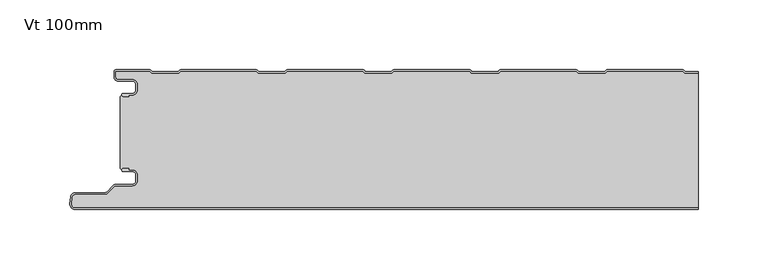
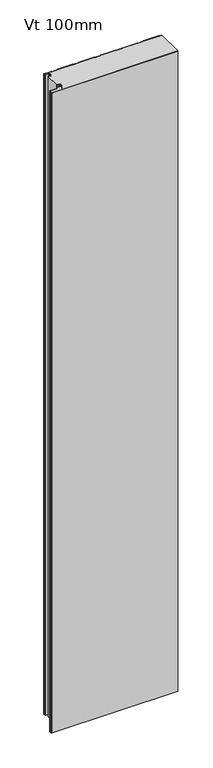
"""IFC4 building model written with IfcOpenShell, lengths in millimetres: plate geometry, KIP-MEX-KSS-1067-R19-CP-Vt-OP_SL : Vt 100mm."""

from ifc_helpers import new_model, si_unit, point, frame, frame_2d, origin, origin_with_axes, place, context, project, spatial, polyline, circle_curve, trimmed, segment, composite_curve, outline, extrude, source, transform, mapped, element, save
from ifc_brep_helpers import plane_surface, cylinder_surface, revolved_surface, advanced_brep


def vt_100mm_dac5878b(model_context):
    return source(origin(), model_context, "Body", "SolidModel", [
        advanced_brep(
        [(-204.468691, -17.0015159, 2400.0), (-205.4686883, -18.0015191, 2400.0), (-204.468691, -19.0015105, 2400.0), (-200.4684874, -19.0015105, 2400.0), (-200.4684874, -18.0015159, 2400.0), (-197.7762776, -18.0015159, 2400.0), (-194.4762819, -14.7015202, 2400.0), (-194.4762819, -10.301529, 2400.0), (-197.7762774, -7.0015335, 2400.0), (-208.1962563, -7.0015335, 2400.0), (-209.9662505, -5.2315393, 2400.0), (-209.9662505, -0.9999916, 2400.0), (-185.4659738, -0.9999916, 2400.0), (-184.0803312, -2.2002307, 2400.0), (-164.7051649, -2.2002307, 2400.0), (-163.319532, -1.0, 2400.0), (-109.2661166, -1.0, 2400.0), (-107.8804836, -2.2002307, 2400.0), (-88.5053173, -2.2002307, 2400.0), (-87.1196844, -1.0, 2400.0), (-33.066269, -1.0, 2400.0), (-31.680636, -2.2002307, 2400.0), (-12.3054697, -2.2002307, 2400.0), (-10.9198368, -1.0, 2400.0), (43.1335786, -1.0, 2400.0), (44.5192116, -2.2002307, 2400.0), (63.8943779, -2.2002307, 2400.0), (65.2800108, -1.0, 2400.0), (119.3334262, -1.0, 2400.0), (120.7190592, -2.2002307, 2400.0), (140.0942255, -2.2002307, 2400.0), (141.4798584, -1.0, 2400.0), (195.5332738, -1.0, 2400.0), (196.9189068, -2.2002307, 2400.0), (206.4999998, -2.2002307, 2400.0), (206.4999998, -1.2002307, 2400.0), (197.2917872, -1.2002307, 2400.0), (196.3007396, -0.3417885, 2400.0), (195.3841227, 0.0, 2400.0), (141.6290096, 0.0, 2400.0), (140.7123927, -0.3417885, 2400.0), (139.7213451, -1.2002307, 2400.0), (121.0919396, -1.2002307, 2400.0), (120.100892, -0.3417885, 2400.0), (119.1842751, 0.0, 2400.0), (65.429162, 0.0, 2400.0), (64.5125451, -0.3417885, 2400.0), (63.5214975, -1.2002307, 2400.0), (44.892092, -1.2002307, 2400.0), (43.9010444, -0.3417885, 2400.0), (42.9844275, 0.0, 2400.0), (-10.7706856, 0.0, 2400.0), (-11.6873025, -0.3417885, 2400.0), (-12.6783501, -1.2002307, 2400.0), (-31.3077556, -1.2002307, 2400.0), (-32.2988032, -0.3417885, 2400.0), (-33.2154201, 0.0, 2400.0), (-86.9705332, 0.0, 2400.0), (-87.8871501, -0.3417885, 2400.0), (-88.8781977, -1.2002307, 2400.0), (-107.5076032, -1.2002307, 2400.0), (-108.4986508, -0.3417885, 2400.0), (-109.4152677, 0.0, 2400.0), (-163.1703808, 0.0, 2400.0), (-164.0869977, -0.3417885, 2400.0), (-165.0780453, -1.2002307, 2400.0), (-183.7074508, -1.2002307, 2400.0), (-184.6984984, -0.3417885, 2400.0), (-185.6152067, 0.0, 2400.0), (-209.5662543, 8.4e-06, 2400.0), (-210.9662505, -1.3999878, 2400.0), (-210.9662505, -5.2315393, 2400.0), (-208.1962563, -8.0015335, 2400.0), (-197.7762774, -8.0015335, 2400.0), (-195.4762819, -10.301529, 2400.0), (-195.4762819, -14.7015202, 2400.0), (-197.7762776, -17.0015159, 2400.0), (-204.468691, -17.0015159, 0.0), (-197.7762776, -17.0015159, 0.0), (-195.4762819, -14.7015202, 0.0), (-195.4762819, -10.301529, 0.0), (-197.7762774, -8.0015335, 0.0), (-208.1962563, -8.0015335, 0.0), (-210.9662505, -5.2315393, 0.0), (-210.9662505, -1.3999878, 0.0), (-209.5662543, 8.4e-06, 0.0), (-185.6151153, 8.4e-06, 0.0), (-184.6984984, -0.3417885, 0.0), (-183.7074508, -1.2002307, 0.0), (-165.0780453, -1.2002307, 0.0), (-164.0869977, -0.3417885, 0.0), (-163.1703808, 0.0, 0.0), (-109.4152677, 0.0, 0.0), (-108.4986508, -0.3417885, 0.0), (-107.5076032, -1.2002307, 0.0), (-88.8781977, -1.2002307, 0.0), (-87.8871501, -0.3417885, 0.0), (-86.9705332, 0.0, 0.0), (-33.2154201, 0.0, 0.0), (-32.2988032, -0.3417885, 0.0), (-31.3077556, -1.2002307, 0.0), (-12.6783501, -1.2002307, 0.0), (-11.6873025, -0.3417885, 0.0), (-10.7706856, 0.0, 0.0), (42.9844275, 0.0, 0.0), (43.9010444, -0.3417885, 0.0), (44.892092, -1.2002307, 0.0), (63.5214975, -1.2002307, 0.0), (64.5125451, -0.3417885, 0.0), (65.429162, 0.0, 0.0), (119.1842751, 0.0, 0.0), (120.100892, -0.3417885, 0.0), (121.0919396, -1.2002307, 0.0), (139.7213451, -1.2002307, 0.0), (140.7123927, -0.3417885, 0.0), (141.6290096, 0.0, 0.0), (195.3841227, 0.0, 0.0), (196.3007396, -0.3417885, 0.0), (197.2917872, -1.2002307, 0.0), (206.4999998, -1.2002307, 0.0), (206.4999998, -2.2002307, 0.0), (196.9189068, -2.2002307, 0.0), (195.5332738, -1.0, 0.0), (141.4798584, -1.0, 0.0), (140.0942255, -2.2002307, 0.0), (120.7190592, -2.2002307, 0.0), (119.3334262, -1.0, 0.0), (65.2800108, -1.0, 0.0), (63.8943779, -2.2002307, 0.0), (44.5192116, -2.2002307, 0.0), (43.1335786, -1.0, 0.0), (-10.9198368, -1.0, 0.0), (-12.3054697, -2.2002307, 0.0), (-31.680636, -2.2002307, 0.0), (-33.066269, -1.0, 0.0), (-87.1196844, -1.0, 0.0), (-88.5053173, -2.2002307, 0.0), (-107.8804836, -2.2002307, 0.0), (-109.2661166, -1.0, 0.0), (-163.319532, -1.0, 0.0), (-164.7051649, -2.2002307, 0.0), (-184.0803312, -2.2002307, 0.0), (-185.4659738, -0.9999916, 0.0), (-209.9662505, -0.9999916, 0.0), (-209.9662505, -5.2315393, 0.0), (-208.1962563, -7.0015335, 0.0), (-197.7762774, -7.0015335, 0.0), (-194.4762819, -10.301529, 0.0), (-194.4762819, -14.7015202, 0.0), (-197.7762776, -18.0015159, 0.0), (-200.4684874, -18.0015159, 0.0), (-200.4684874, -19.0015105, 0.0), (-204.468691, -19.0015105, 0.0), (-205.4686882, -18.0015192, 0.0)],
        [
            (0, 1, circle_curve(frame((-204.468691, -18.0015132, 2400.0), z_axis=(0.0, 0.0, 1.0), x_axis=(1.0, 0.0, 0.0)), 0.9999973)),
            (1, 2, circle_curve(frame((-204.468691, -18.0015133, 2400.0), z_axis=(0.0, 0.0, 1.0), x_axis=(1.0, 0.0, 0.0)), 0.9999972)),
            (2, 3),
            (3, 4),
            (4, 5),
            (5, 6, circle_curve(frame((-197.7762776, -14.7015202, 2400.0), z_axis=(0.0, 0.0, 1.0), x_axis=(1.0, 0.0, 0.0)), 3.2999957)),
            (6, 7),
            (7, 8, circle_curve(frame((-197.7762774, -10.301529, 2400.0), z_axis=(0.0, 0.0, 1.0), x_axis=(1.0, 0.0, 0.0)), 3.2999955)),
            (8, 9),
            (9, 10, circle_curve(frame((-208.1962563, -5.2315393, 2400.0), z_axis=(0.0, 0.0, -1.0), x_axis=(1.0, 0.0, 0.0)), 1.7699942)),
            (10, 11),
            (11, 12),
            (12, 13),
            (13, 14),
            (14, 15),
            (15, 16),
            (16, 17),
            (17, 18),
            (18, 19),
            (19, 20),
            (20, 21),
            (21, 22),
            (22, 23),
            (23, 24),
            (24, 25),
            (25, 26),
            (26, 27),
            (27, 28),
            (28, 29),
            (29, 30),
            (30, 31),
            (31, 32),
            (32, 33),
            (33, 34),
            (34, 35),
            (35, 36),
            (36, 37),
            (37, 38, circle_curve(frame((195.3841227, -1.3999972, 2400.0), z_axis=(0.0, 0.0, 1.0), x_axis=(1.0, 0.0, 0.0)), 1.3999972)),
            (38, 39),
            (39, 40, circle_curve(frame((141.6290096, -1.3999972, 2400.0), z_axis=(0.0, 0.0, 1.0), x_axis=(1.0, 0.0, 0.0)), 1.3999972)),
            (40, 41),
            (41, 42),
            (42, 43),
            (43, 44, circle_curve(frame((119.1842751, -1.3999972, 2400.0), z_axis=(0.0, 0.0, 1.0), x_axis=(1.0, 0.0, 0.0)), 1.3999972)),
            (44, 45),
            (45, 46, circle_curve(frame((65.429162, -1.3999972, 2400.0), z_axis=(0.0, 0.0, 1.0), x_axis=(1.0, 0.0, 0.0)), 1.3999972)),
            (46, 47),
            (47, 48),
            (48, 49),
            (49, 50, circle_curve(frame((42.9844275, -1.3999972, 2400.0), z_axis=(0.0, 0.0, 1.0), x_axis=(1.0, 0.0, 0.0)), 1.3999972)),
            (50, 51),
            (51, 52, circle_curve(frame((-10.7706856, -1.3999972, 2400.0), z_axis=(0.0, 0.0, 1.0), x_axis=(1.0, 0.0, 0.0)), 1.3999972)),
            (52, 53),
            (53, 54),
            (54, 55),
            (55, 56, circle_curve(frame((-33.2154201, -1.3999972, 2400.0), z_axis=(0.0, 0.0, 1.0), x_axis=(1.0, 0.0, 0.0)), 1.3999972)),
            (56, 57),
            (57, 58, circle_curve(frame((-86.9705332, -1.3999972, 2400.0), z_axis=(0.0, 0.0, 1.0), x_axis=(1.0, 0.0, 0.0)), 1.3999972)),
            (58, 59),
            (59, 60),
            (60, 61),
            (61, 62, circle_curve(frame((-109.4152677, -1.3999972, 2400.0), z_axis=(0.0, 0.0, 1.0), x_axis=(1.0, 0.0, 0.0)), 1.3999972)),
            (62, 63),
            (63, 64, circle_curve(frame((-163.1703808, -1.3999972, 2400.0), z_axis=(0.0, 0.0, 1.0), x_axis=(1.0, 0.0, 0.0)), 1.3999972)),
            (64, 65),
            (65, 66),
            (66, 67),
            (67, 68, circle_curve(frame((-185.6151153, -1.3999972, 2400.0), z_axis=(0.0, 0.0, 1.0), x_axis=(1.0, 0.0, 0.0)), 1.3999972)),
            (68, 69),
            (69, 70, circle_curve(frame((-209.5662543, -1.3999878, 2400.0), z_axis=(0.0, 0.0, 1.0), x_axis=(1.0, 0.0, 0.0)), 1.3999962)),
            (70, 71),
            (71, 72, circle_curve(frame((-208.1962563, -5.2315393, 2400.0), z_axis=(0.0, 0.0, 1.0), x_axis=(1.0, 0.0, 0.0)), 2.7699942)),
            (72, 73),
            (73, 74, circle_curve(frame((-197.7762774, -10.301529, 2400.0), z_axis=(0.0, 0.0, -1.0), x_axis=(1.0, 0.0, 0.0)), 2.2999955)),
            (74, 75),
            (75, 76, circle_curve(frame((-197.7762776, -14.7015202, 2400.0), z_axis=(0.0, 0.0, -1.0), x_axis=(1.0, 0.0, 0.0)), 2.2999957)),
            (76, 0),
            (77, 78),
            (78, 79, circle_curve(frame((-197.7762776, -14.7015202, 0.0), z_axis=(0.0, 0.0, 1.0), x_axis=(1.0, 0.0, 0.0)), 2.2999957)),
            (79, 80),
            (80, 81, circle_curve(frame((-197.7762774, -10.301529, 0.0), z_axis=(0.0, 0.0, 1.0), x_axis=(1.0, 0.0, 0.0)), 2.2999955)),
            (81, 82),
            (82, 83, circle_curve(frame((-208.1962563, -5.2315393, 0.0), z_axis=(0.0, 0.0, -1.0), x_axis=(1.0, 0.0, 0.0)), 2.7699942)),
            (83, 84),
            (84, 85, circle_curve(frame((-209.5662543, -1.3999878, 0.0), z_axis=(0.0, 0.0, -1.0), x_axis=(1.0, 0.0, 0.0)), 1.3999962)),
            (85, 86),
            (86, 87, circle_curve(frame((-185.6151153, -1.3999972, 0.0), z_axis=(0.0, 0.0, -1.0), x_axis=(1.0, 0.0, 0.0)), 1.3999972)),
            (87, 88),
            (88, 89),
            (89, 90),
            (90, 91, circle_curve(frame((-163.1703808, -1.3999972, 0.0), z_axis=(0.0, 0.0, -1.0), x_axis=(1.0, 0.0, 0.0)), 1.3999972)),
            (91, 92),
            (92, 93, circle_curve(frame((-109.4152677, -1.3999972, 0.0), z_axis=(0.0, 0.0, -1.0), x_axis=(1.0, 0.0, 0.0)), 1.3999972)),
            (93, 94),
            (94, 95),
            (95, 96),
            (96, 97, circle_curve(frame((-86.9705332, -1.3999972, 0.0), z_axis=(0.0, 0.0, -1.0), x_axis=(1.0, 0.0, 0.0)), 1.3999972)),
            (97, 98),
            (98, 99, circle_curve(frame((-33.2154201, -1.3999972, 0.0), z_axis=(0.0, 0.0, -1.0), x_axis=(1.0, 0.0, 0.0)), 1.3999972)),
            (99, 100),
            (100, 101),
            (101, 102),
            (102, 103, circle_curve(frame((-10.7706856, -1.3999972, 0.0), z_axis=(0.0, 0.0, -1.0), x_axis=(1.0, 0.0, 0.0)), 1.3999972)),
            (103, 104),
            (104, 105, circle_curve(frame((42.9844275, -1.3999972, 0.0), z_axis=(0.0, 0.0, -1.0), x_axis=(1.0, 0.0, 0.0)), 1.3999972)),
            (105, 106),
            (106, 107),
            (107, 108),
            (108, 109, circle_curve(frame((65.429162, -1.3999972, 0.0), z_axis=(0.0, 0.0, -1.0), x_axis=(1.0, 0.0, 0.0)), 1.3999972)),
            (109, 110),
            (110, 111, circle_curve(frame((119.1842751, -1.3999972, 0.0), z_axis=(0.0, 0.0, -1.0), x_axis=(1.0, 0.0, 0.0)), 1.3999972)),
            (111, 112),
            (112, 113),
            (113, 114),
            (114, 115, circle_curve(frame((141.6290096, -1.3999972, 0.0), z_axis=(0.0, 0.0, -1.0), x_axis=(1.0, 0.0, 0.0)), 1.3999972)),
            (115, 116),
            (116, 117, circle_curve(frame((195.3841227, -1.3999972, 0.0), z_axis=(0.0, 0.0, -1.0), x_axis=(1.0, 0.0, 0.0)), 1.3999972)),
            (117, 118),
            (118, 119),
            (119, 120),
            (120, 121),
            (121, 122),
            (122, 123),
            (123, 124),
            (124, 125),
            (125, 126),
            (126, 127),
            (127, 128),
            (128, 129),
            (129, 130),
            (130, 131),
            (131, 132),
            (132, 133),
            (133, 134),
            (134, 135),
            (135, 136),
            (136, 137),
            (137, 138),
            (138, 139),
            (139, 140),
            (140, 141),
            (141, 142),
            (142, 143),
            (143, 144),
            (144, 145, circle_curve(frame((-208.1962563, -5.2315393, 0.0), z_axis=(0.0, 0.0, 1.0), x_axis=(1.0, 0.0, 0.0)), 1.7699942)),
            (145, 146),
            (146, 147, circle_curve(frame((-197.7762774, -10.301529, 0.0), z_axis=(0.0, 0.0, -1.0), x_axis=(1.0, 0.0, 0.0)), 3.2999955)),
            (147, 148),
            (148, 149, circle_curve(frame((-197.7762776, -14.7015202, 0.0), z_axis=(0.0, 0.0, -1.0), x_axis=(1.0, 0.0, 0.0)), 3.2999957)),
            (149, 150),
            (150, 151),
            (151, 152),
            (152, 153, circle_curve(frame((-204.468691, -18.0015133, 0.0), z_axis=(0.0, 0.0, -1.0), x_axis=(1.0, 0.0, 0.0)), 0.9999972)),
            (153, 77, circle_curve(frame((-204.468691, -18.0015132, 0.0), z_axis=(0.0, 0.0, -1.0), x_axis=(1.0, 0.0, 0.0)), 0.9999973)),
            (76, 78),
            (77, 0),
            (75, 79),
            (74, 80),
            (73, 81),
            (72, 82),
            (71, 83),
            (70, 84),
            (69, 85),
            (68, 86),
            (67, 87),
            (66, 88),
            (65, 89),
            (64, 90),
            (63, 91),
            (62, 92),
            (61, 93),
            (60, 94),
            (59, 95),
            (58, 96),
            (57, 97),
            (56, 98),
            (55, 99),
            (54, 100),
            (53, 101),
            (52, 102),
            (51, 103),
            (50, 104),
            (49, 105),
            (48, 106),
            (47, 107),
            (46, 108),
            (45, 109),
            (44, 110),
            (43, 111),
            (42, 112),
            (41, 113),
            (40, 114),
            (39, 115),
            (38, 116),
            (37, 117),
            (36, 118),
            (35, 119),
            (120, 34),
            (33, 121),
            (32, 122),
            (31, 123),
            (30, 124),
            (29, 125),
            (28, 126),
            (27, 127),
            (26, 128),
            (25, 129),
            (24, 130),
            (23, 131),
            (22, 132),
            (21, 133),
            (20, 134),
            (19, 135),
            (18, 136),
            (17, 137),
            (16, 138),
            (15, 139),
            (14, 140),
            (13, 141),
            (12, 142),
            (11, 143),
            (10, 144),
            (9, 145),
            (8, 146),
            (7, 147),
            (6, 148),
            (5, 149),
            (4, 150),
            (3, 151),
            (2, 152),
            (1, 153),
        ],
        [
            plane_surface(frame((326.9000002, 0.0, 2400.0), z_axis=(0.0, 0.0, 1.0), x_axis=(0.0, 1.0, 0.0))),
            plane_surface(frame((326.9000002, 0.0, 0.0), z_axis=(0.0, 0.0, -1.0), x_axis=(0.0, 1.0, 0.0))),
            plane_surface(frame((-204.468691, -17.0015159, 2400.0), z_axis=(0.0, 1.0, 0.0), x_axis=(0.0, 0.0, -1.0))),
            revolved_surface(polyline([(-195.47628189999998, -14.7015202, 0.0), (-195.47628189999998, -14.7015202, 2400.0)]), (-197.7762776, -14.7015202, 2400.0), (0.0, 0.0, -1.0)),
            plane_surface(frame((-195.4762819, -14.7015202, 2400.0), z_axis=(-1.0, 0.0, 0.0), x_axis=(0.0, 0.0, -1.0))),
            revolved_surface(polyline([(-195.4762819, -10.301529, 0.0), (-195.4762819, -10.301529, 2400.0)]), (-197.7762774, -10.301529, 2400.0), (0.0, 0.0, -1.0)),
            plane_surface(frame((-197.7762774, -8.0015335, 2400.0), z_axis=(0.0, -1.0, 0.0), x_axis=(0.0, 0.0, -1.0))),
            cylinder_surface(frame((-208.1962563, -5.2315393, 2400.0), z_axis=(0.0, 0.0, 1.0), x_axis=(1.0, 0.0, 0.0)), 2.7699942),
            plane_surface(frame((-210.9662505, -5.2315393, 2400.0), z_axis=(-1.0, 0.0, 0.0), x_axis=(0.0, 0.0, -1.0))),
            cylinder_surface(frame((-209.5662543, -1.3999878, 2400.0), z_axis=(0.0, 0.0, 1.0), x_axis=(1.0, 0.0, 0.0)), 1.3999962),
            plane_surface(frame((-209.5662543, 8.4e-06, 2400.0), z_axis=(0.0, 1.0, 0.0), x_axis=(0.0, 0.0, -1.0))),
            cylinder_surface(frame((-185.6151153, -1.3999972, 2400.0), z_axis=(0.0, 0.0, 1.0), x_axis=(1.0, 0.0, 0.0)), 1.3999972),
            plane_surface(frame((-184.6984984, -0.3417885, 2400.0), z_axis=(0.6547276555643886, 0.755864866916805, 0.0), x_axis=(0.0, 0.0, -1.0))),
            plane_surface(frame((-174.3927481, -1.2002307, 2400.0), z_axis=(0.0, 1.0, 0.0), x_axis=(0.0, 0.0, -1.0))),
            plane_surface(frame((-165.0780453, -1.2002307, 2400.0), z_axis=(-0.6547276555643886, 0.755864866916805, 0.0), x_axis=(0.0, 0.0, -1.0))),
            cylinder_surface(frame((-163.1703808, -1.3999972, 2400.0), z_axis=(0.0, 0.0, 1.0), x_axis=(1.0, 0.0, 0.0)), 1.3999972),
            plane_surface(frame((-163.1703808, 0.0, 2400.0), z_axis=(0.0, 1.0, 0.0), x_axis=(0.0, 0.0, -1.0))),
            cylinder_surface(frame((-109.4152677, -1.3999972, 2400.0), z_axis=(0.0, 0.0, 1.0), x_axis=(1.0, 0.0, 0.0)), 1.3999972),
            plane_surface(frame((-108.4986508, -0.3417885, 2400.0), z_axis=(0.6547276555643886, 0.755864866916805, 0.0), x_axis=(0.0, 0.0, -1.0))),
            plane_surface(frame((-98.1929005, -1.2002307, 2400.0), z_axis=(0.0, 1.0, 0.0), x_axis=(0.0, 0.0, -1.0))),
            plane_surface(frame((-88.8781977, -1.2002307, 2400.0), z_axis=(-0.6547276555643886, 0.755864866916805, 0.0), x_axis=(0.0, 0.0, -1.0))),
            cylinder_surface(frame((-86.9705332, -1.3999972, 2400.0), z_axis=(0.0, 0.0, 1.0), x_axis=(1.0, 0.0, 0.0)), 1.3999972),
            plane_surface(frame((-86.9705332, 0.0, 2400.0), z_axis=(0.0, 1.0, 0.0), x_axis=(0.0, 0.0, -1.0))),
            cylinder_surface(frame((-33.2154201, -1.3999972, 2400.0), z_axis=(0.0, 0.0, 1.0), x_axis=(1.0, 0.0, 0.0)), 1.3999972),
            plane_surface(frame((-32.2988032, -0.3417885, 2400.0), z_axis=(0.6547276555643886, 0.755864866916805, 0.0), x_axis=(0.0, 0.0, -1.0))),
            plane_surface(frame((-21.9930529, -1.2002307, 2400.0), z_axis=(0.0, 1.0, 0.0), x_axis=(0.0, 0.0, -1.0))),
            plane_surface(frame((-12.6783501, -1.2002307, 2400.0), z_axis=(-0.6547276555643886, 0.755864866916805, 0.0), x_axis=(0.0, 0.0, -1.0))),
            cylinder_surface(frame((-10.7706856, -1.3999972, 2400.0), z_axis=(0.0, 0.0, 1.0), x_axis=(1.0, 0.0, 0.0)), 1.3999972),
            plane_surface(frame((-10.7706856, 0.0, 2400.0), z_axis=(0.0, 1.0, 0.0), x_axis=(0.0, 0.0, -1.0))),
            cylinder_surface(frame((42.9844275, -1.3999972, 2400.0), z_axis=(0.0, 0.0, 1.0), x_axis=(1.0, 0.0, 0.0)), 1.3999972),
            plane_surface(frame((43.9010444, -0.3417885, 2400.0), z_axis=(0.6547276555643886, 0.755864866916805, 0.0), x_axis=(0.0, 0.0, -1.0))),
            plane_surface(frame((54.2067947, -1.2002307, 2400.0), z_axis=(0.0, 1.0, 0.0), x_axis=(0.0, 0.0, -1.0))),
            plane_surface(frame((63.5214975, -1.2002307, 2400.0), z_axis=(-0.6547276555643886, 0.755864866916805, 0.0), x_axis=(0.0, 0.0, -1.0))),
            cylinder_surface(frame((65.429162, -1.3999972, 2400.0), z_axis=(0.0, 0.0, 1.0), x_axis=(1.0, 0.0, 0.0)), 1.3999972),
            plane_surface(frame((65.429162, 0.0, 2400.0), z_axis=(0.0, 1.0, 0.0), x_axis=(0.0, 0.0, -1.0))),
            cylinder_surface(frame((119.1842751, -1.3999972, 2400.0), z_axis=(0.0, 0.0, 1.0), x_axis=(1.0, 0.0, 0.0)), 1.3999972),
            plane_surface(frame((120.100892, -0.3417885, 2400.0), z_axis=(0.6547276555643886, 0.755864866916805, 0.0), x_axis=(0.0, 0.0, -1.0))),
            plane_surface(frame((130.4066423, -1.2002307, 2400.0), z_axis=(0.0, 1.0, 0.0), x_axis=(0.0, 0.0, -1.0))),
            plane_surface(frame((139.7213451, -1.2002307, 2400.0), z_axis=(-0.6547276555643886, 0.755864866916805, 0.0), x_axis=(0.0, 0.0, -1.0))),
            cylinder_surface(frame((141.6290096, -1.3999972, 2400.0), z_axis=(0.0, 0.0, 1.0), x_axis=(1.0, 0.0, 0.0)), 1.3999972),
            plane_surface(frame((141.6290096, 0.0, 2400.0), z_axis=(0.0, 1.0, 0.0), x_axis=(0.0, 0.0, -1.0))),
            cylinder_surface(frame((195.3841227, -1.3999972, 2400.0), z_axis=(0.0, 0.0, 1.0), x_axis=(1.0, 0.0, 0.0)), 1.3999972),
            plane_surface(frame((196.3007396, -0.3417885, 2400.0), z_axis=(0.6547276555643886, 0.755864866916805, 0.0), x_axis=(0.0, 0.0, -1.0))),
            plane_surface(frame((206.6064899, -1.2002307, 2400.0), z_axis=(0.0, 1.0, 0.0), x_axis=(0.0, 0.0, -1.0))),
            plane_surface(frame((216.2940731, -2.2002307, 2400.0), z_axis=(0.0, -1.0, 0.0), x_axis=(0.0, 0.0, -1.0))),
            plane_surface(frame((196.9189068, -2.2002307, 2400.0), z_axis=(-0.6547276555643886, -0.755864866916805, 0.0), x_axis=(0.0, 0.0, -1.0))),
            plane_surface(frame((195.5332738, -1.0, 2400.0), z_axis=(0.0, -1.0, 0.0), x_axis=(0.0, 0.0, -1.0))),
            plane_surface(frame((141.4798584, -1.0, 2400.0), z_axis=(0.6547276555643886, -0.755864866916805, 0.0), x_axis=(0.0, 0.0, -1.0))),
            plane_surface(frame((140.0942255, -2.2002307, 2400.0), z_axis=(0.0, -1.0, 0.0), x_axis=(0.0, 0.0, -1.0))),
            plane_surface(frame((120.7190592, -2.2002307, 2400.0), z_axis=(-0.6547276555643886, -0.755864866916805, 0.0), x_axis=(0.0, 0.0, -1.0))),
            plane_surface(frame((119.3334262, -1.0, 2400.0), z_axis=(0.0, -1.0, 0.0), x_axis=(0.0, 0.0, -1.0))),
            plane_surface(frame((65.2800108, -1.0, 2400.0), z_axis=(0.6547276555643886, -0.755864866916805, 0.0), x_axis=(0.0, 0.0, -1.0))),
            plane_surface(frame((63.8943779, -2.2002307, 2400.0), z_axis=(0.0, -1.0, 0.0), x_axis=(0.0, 0.0, -1.0))),
            plane_surface(frame((44.5192116, -2.2002307, 2400.0), z_axis=(-0.6547276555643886, -0.755864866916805, 0.0), x_axis=(0.0, 0.0, -1.0))),
            plane_surface(frame((43.1335786, -1.0, 2400.0), z_axis=(0.0, -1.0, 0.0), x_axis=(0.0, 0.0, -1.0))),
            plane_surface(frame((-10.9198368, -1.0, 2400.0), z_axis=(0.6547276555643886, -0.755864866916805, 0.0), x_axis=(0.0, 0.0, -1.0))),
            plane_surface(frame((-12.3054697, -2.2002307, 2400.0), z_axis=(0.0, -1.0, 0.0), x_axis=(0.0, 0.0, -1.0))),
            plane_surface(frame((-31.680636, -2.2002307, 2400.0), z_axis=(-0.6547276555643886, -0.755864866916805, 0.0), x_axis=(0.0, 0.0, -1.0))),
            plane_surface(frame((-33.066269, -1.0, 2400.0), z_axis=(0.0, -1.0, 0.0), x_axis=(0.0, 0.0, -1.0))),
            plane_surface(frame((-87.1196844, -1.0, 2400.0), z_axis=(0.6547276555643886, -0.755864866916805, 0.0), x_axis=(0.0, 0.0, -1.0))),
            plane_surface(frame((-88.5053173, -2.2002307, 2400.0), z_axis=(0.0, -1.0, 0.0), x_axis=(0.0, 0.0, -1.0))),
            plane_surface(frame((-107.8804836, -2.2002307, 2400.0), z_axis=(-0.6547276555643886, -0.755864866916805, 0.0), x_axis=(0.0, 0.0, -1.0))),
            plane_surface(frame((-109.2661166, -1.0, 2400.0), z_axis=(0.0, -1.0, 0.0), x_axis=(0.0, 0.0, -1.0))),
            plane_surface(frame((-163.319532, -1.0, 2400.0), z_axis=(0.6547276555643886, -0.755864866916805, 0.0), x_axis=(0.0, 0.0, -1.0))),
            plane_surface(frame((-164.7051649, -2.2002307, 2400.0), z_axis=(0.0, -1.0, 0.0), x_axis=(0.0, 0.0, -1.0))),
            plane_surface(frame((-184.0803312, -2.2002307, 2400.0), z_axis=(-0.6547276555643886, -0.755864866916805, 0.0), x_axis=(0.0, 0.0, -1.0))),
            plane_surface(frame((-185.4659738, -0.9999916, 2400.0), z_axis=(0.0, -1.0, 0.0), x_axis=(0.0, 0.0, -1.0))),
            plane_surface(frame((-209.9662505, -0.9999916, 2400.0), z_axis=(1.0, 0.0, 0.0), x_axis=(0.0, 0.0, -1.0))),
            revolved_surface(polyline([(-206.42626209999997, -5.2315393, 0.0), (-206.42626209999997, -5.2315393, 2400.0)]), (-208.1962563, -5.2315393, 2400.0), (0.0, 0.0, -1.0)),
            plane_surface(frame((-208.1962563, -7.0015335, 2400.0), z_axis=(0.0, 1.0, 0.0), x_axis=(0.0, 0.0, -1.0))),
            cylinder_surface(frame((-197.7762774, -10.301529, 2400.0), z_axis=(0.0, 0.0, 1.0), x_axis=(1.0, 0.0, 0.0)), 3.2999955),
            plane_surface(frame((-194.4762819, -10.301529, 2400.0), z_axis=(1.0, 0.0, 0.0), x_axis=(0.0, 0.0, -1.0))),
            cylinder_surface(frame((-197.7762776, -14.7015202, 2400.0), z_axis=(0.0, 0.0, 1.0), x_axis=(1.0, 0.0, 0.0)), 3.2999957),
            plane_surface(frame((-197.7762776, -18.0015159, 2400.0), z_axis=(0.0, -1.0, 0.0), x_axis=(0.0, 0.0, -1.0))),
            plane_surface(frame((-200.4684874, -18.0015159, 2400.0), z_axis=(1.0, 0.0, 0.0), x_axis=(0.0, 0.0, -1.0))),
            plane_surface(frame((-200.4684874, -19.0015105, 2400.0), z_axis=(0.0, -1.0, 0.0), x_axis=(0.0, 0.0, -1.0))),
            cylinder_surface(frame((-204.468691, -18.0015133, 2400.0), z_axis=(0.0, 0.0, 1.0), x_axis=(1.0, 0.0, 0.0)), 0.9999972),
            cylinder_surface(frame((-204.468691, -18.0015132, 2400.0), z_axis=(0.0, 0.0, 1.0), x_axis=(1.0, 0.0, 0.0)), 0.9999973),
            plane_surface(frame((206.4999998, -110.0, 2400.0), z_axis=(1.0, 0.0, 0.0), x_axis=(0.0, 0.0, -1.0))),
        ],
        [
            (0, [[1, 2, 3, 4, 5, 6, 7, 8, 9, 10, 11, 12, 13, 14, 15, 16, 17, 18, 19, 20, 21, 22, 23, 24, 25, 26, 27, 28, 29, 30, 31, 32, 33, 34, 35, 36, 37, 38, 39, 40, 41, 42, 43, 44, 45, 46, 47, 48, 49, 50, 51, 52, 53, 54, 55, 56, 57, 58, 59, 60, 61, 62, 63, 64, 65, 66, 67, 68, 69, 70, 71, 72, 73, 74, 75, 76, 77]]),
            (1, [[78, 79, 80, 81, 82, 83, 84, 85, 86, 87, 88, 89, 90, 91, 92, 93, 94, 95, 96, 97, 98, 99, 100, 101, 102, 103, 104, 105, 106, 107, 108, 109, 110, 111, 112, 113, 114, 115, 116, 117, 118, 119, 120, 121, 122, 123, 124, 125, 126, 127, 128, 129, 130, 131, 132, 133, 134, 135, 136, 137, 138, 139, 140, 141, 142, 143, 144, 145, 146, 147, 148, 149, 150, 151, 152, 153, 154]]),
            (2, [[155, -78, 156, -77]]),
            (3, [[157, -79, -155, -76]]),
            (4, [[158, -80, -157, -75]]),
            (5, [[159, -81, -158, -74]]),
            (6, [[160, -82, -159, -73]]),
            (7, [[161, -83, -160, -72]]),
            (8, [[162, -84, -161, -71]]),
            (9, [[163, -85, -162, -70]]),
            (10, [[164, -86, -163, -69]]),
            (11, [[165, -87, -164, -68]]),
            (12, [[166, -88, -165, -67]]),
            (13, [[167, -89, -166, -66]]),
            (14, [[168, -90, -167, -65]]),
            (15, [[169, -91, -168, -64]]),
            (16, [[170, -92, -169, -63]]),
            (17, [[171, -93, -170, -62]]),
            (18, [[172, -94, -171, -61]]),
            (19, [[173, -95, -172, -60]]),
            (20, [[174, -96, -173, -59]]),
            (21, [[175, -97, -174, -58]]),
            (22, [[176, -98, -175, -57]]),
            (23, [[177, -99, -176, -56]]),
            (24, [[178, -100, -177, -55]]),
            (25, [[179, -101, -178, -54]]),
            (26, [[180, -102, -179, -53]]),
            (27, [[181, -103, -180, -52]]),
            (28, [[182, -104, -181, -51]]),
            (29, [[183, -105, -182, -50]]),
            (30, [[184, -106, -183, -49]]),
            (31, [[185, -107, -184, -48]]),
            (32, [[186, -108, -185, -47]]),
            (33, [[187, -109, -186, -46]]),
            (34, [[188, -110, -187, -45]]),
            (35, [[189, -111, -188, -44]]),
            (36, [[190, -112, -189, -43]]),
            (37, [[191, -113, -190, -42]]),
            (38, [[192, -114, -191, -41]]),
            (39, [[193, -115, -192, -40]]),
            (40, [[194, -116, -193, -39]]),
            (41, [[195, -117, -194, -38]]),
            (42, [[196, -118, -195, -37]]),
            (43, [[-36, 197, -119, -196]]),
            (44, [[-121, 198, -34, 199]]),
            (45, [[200, -122, -199, -33]]),
            (46, [[201, -123, -200, -32]]),
            (47, [[202, -124, -201, -31]]),
            (48, [[203, -125, -202, -30]]),
            (49, [[204, -126, -203, -29]]),
            (50, [[205, -127, -204, -28]]),
            (51, [[206, -128, -205, -27]]),
            (52, [[207, -129, -206, -26]]),
            (53, [[208, -130, -207, -25]]),
            (54, [[209, -131, -208, -24]]),
            (55, [[210, -132, -209, -23]]),
            (56, [[211, -133, -210, -22]]),
            (57, [[212, -134, -211, -21]]),
            (58, [[213, -135, -212, -20]]),
            (59, [[214, -136, -213, -19]]),
            (60, [[215, -137, -214, -18]]),
            (61, [[216, -138, -215, -17]]),
            (62, [[217, -139, -216, -16]]),
            (63, [[218, -140, -217, -15]]),
            (64, [[219, -141, -218, -14]]),
            (65, [[220, -142, -219, -13]]),
            (66, [[221, -143, -220, -12]]),
            (67, [[222, -144, -221, -11]]),
            (68, [[223, -145, -222, -10]]),
            (69, [[224, -146, -223, -9]]),
            (70, [[225, -147, -224, -8]]),
            (71, [[226, -148, -225, -7]]),
            (72, [[227, -149, -226, -6]]),
            (73, [[228, -150, -227, -5]]),
            (74, [[229, -151, -228, -4]]),
            (75, [[230, -152, -229, -3]]),
            (76, [[231, -153, -230, -2]]),
            (77, [[-156, -154, -231, -1]]),
            (78, [[-198, -120, -197, -35]]),
        ],
    ),
        extrude(outline(composite_curve([segment(polyline([(-242.5087619, -96.1184903), (-242.0690674, -91.0944437)]), True, "CONTINUOUS"), segment(trimmed(circle_curve(frame_2d((-238.4198391, -91.7052448)), 3.6999926), [point((-242.0690674, -91.0944437))], [point((-238.4198391, -88.0052522))], False, "CARTESIAN"), True, "CONTINUOUS"), segment(polyline([(-238.4198391, -88.0052522), (-217.2773995, -88.0052522)]), True, "CONTINUOUS"), segment(trimmed(circle_curve(frame_2d((-217.2773995, -86.7052548)), 1.2999974), [point((-217.2773995, -88.0052522))], [point((-216.3581626, -87.6244918))], True, "CARTESIAN"), True, "CONTINUOUS"), segment(polyline([(-216.3581626, -87.6244918), (-211.5297451, -82.7960743)]), True, "CONTINUOUS"), segment(trimmed(circle_curve(frame_2d((-209.6205606, -84.7052588)), 2.6999946), [point((-211.5297451, -82.7960743))], [point((-209.6205606, -82.0052642))], False, "CARTESIAN"), True, "CONTINUOUS"), segment(polyline([(-209.6205606, -82.0052642), (-197.8096715, -82.0052642)]), True, "CONTINUOUS"), segment(trimmed(circle_curve(frame_2d((-197.8096715, -79.6552689)), 2.3499953), [point((-197.8096715, -82.0052642))], [point((-195.4596762, -79.6552689))], True, "CARTESIAN"), True, "CONTINUOUS"), segment(polyline([(-195.4596762, -79.6552689), (-195.4596762, -75.2552777)]), True, "CONTINUOUS"), segment(trimmed(circle_curve(frame_2d((-197.8096715, -75.2552777)), 2.3499953), [point((-195.4596762, -75.2552777))], [point((-197.8096715, -72.9052824))], True, "CARTESIAN"), True, "CONTINUOUS"), segment(polyline([(-197.8096715, -72.9052824), (-204.3289777, -72.9052824)]), True, "CONTINUOUS"), segment(trimmed(circle_curve(frame_2d((-204.2686906, -71.7068002)), 1.1999976), [point((-204.3289777, -72.9052824))], [point((-205.4683, -71.6762782))], False, "CARTESIAN"), True, "CONTINUOUS"), segment(trimmed(circle_curve(frame_2d((-204.2686906, -71.7068002)), 1.1999976), [point((-205.4683, -71.6762782))], [point((-204.267176, -70.5068035))], False, "CARTESIAN"), True, "CONTINUOUS"), segment(polyline([(-204.267176, -70.5068035), (-200.5087826, -70.5068035), (-200.5087826, -71.9052824), (-197.8096715, -71.9052824)]), True, "CONTINUOUS"), segment(trimmed(circle_curve(frame_2d((-197.8096715, -75.2552777)), 3.3499953), [point((-197.8096715, -71.9052824))], [point((-194.4596762, -75.2552777))], False, "CARTESIAN"), True, "CONTINUOUS"), segment(polyline([(-194.4596762, -75.2552777), (-194.4596762, -79.6552689)]), True, "CONTINUOUS"), segment(trimmed(circle_curve(frame_2d((-197.8096715, -79.6552689)), 3.3499953), [point((-194.4596762, -79.6552689))], [point((-197.8096715, -83.0052642))], False, "CARTESIAN"), True, "CONTINUOUS"), segment(polyline([(-197.8096715, -83.0052642), (-209.6205606, -83.0052642)]), True, "CONTINUOUS"), segment(trimmed(circle_curve(frame_2d((-209.6205606, -84.7052588)), 1.6999946), [point((-209.6205606, -83.0052642))], [point((-210.8226383, -83.5031811))], True, "CARTESIAN"), True, "CONTINUOUS"), segment(polyline([(-210.8226383, -83.5031811), (-216.3247094, -89.0052522), (-238.4198391, -89.0052522)]), True, "CONTINUOUS"), segment(trimmed(circle_curve(frame_2d((-238.4198391, -91.7052448)), 2.6999926), [point((-238.4198391, -89.0052522))], [point((-241.0765707, -91.2238542))], True, "CARTESIAN"), True, "CONTINUOUS"), segment(polyline([(-241.0765707, -91.2238542), (-241.5125697, -96.2056751)]), True, "CONTINUOUS"), segment(trimmed(circle_curve(frame_2d((-238.9521175, -96.4297607)), 2.5702393), [point((-241.5125697, -96.2056751))], [point((-239.0094458, -98.9993606))], True, "CARTESIAN"), True, "CONTINUOUS"), segment(polyline([(-239.0094458, -98.9993606), (206.4999998, -98.9993606), (206.4999998, -100.0), (-238.9521175, -100.0)]), True, "CONTINUOUS"), segment(trimmed(circle_curve(frame_2d((-238.9521175, -96.4297607)), 3.5702393), [point((-238.9521175, -100.0))], [point((-242.5087619, -96.1184903))], False, "CARTESIAN"), True, "CONTINUOUS")], self_intersect=False)), origin_with_axes(), (0.0, 0.0, 1.0), 2400.0),
        advanced_brep(
        [(-205.4683, -71.670875, 2400.0), (-204.267176, -70.5014003, 2400.0), (-200.5087826, -70.5014003, 2400.0), (-200.5087826, -71.8998791, 2400.0), (-197.8096715, -71.8998791, 2400.0), (-194.4596762, -75.2498744, 2400.0), (-194.4596762, -79.6498656, 2400.0), (-197.8096715, -82.9998609, 2400.0), (-209.6205606, -82.9998609, 2400.0), (-210.8226383, -83.4977778, 2400.0), (-216.3247094, -88.9998489, 2400.0), (-238.4198391, -88.9998489, 2400.0), (-241.0765707, -91.2184509, 2400.0), (-241.5125697, -96.2002718, 2400.0), (-238.9521175, -98.9945967, 2400.0), (206.4999998, -99.0, 2400.0), (206.4999998, -2.2002307, 2400.0), (196.9189068, -2.2002307, 2400.0), (195.5332739, -1.0, 2400.0), (141.4798585, -1.0, 2400.0), (140.0942255, -2.2002307, 2400.0), (120.7190592, -2.2002307, 2400.0), (119.3334263, -1.0, 2400.0), (65.2800109, -1.0, 2400.0), (63.8943779, -2.2002307, 2400.0), (44.5192116, -2.2002307, 2400.0), (43.1335787, -1.0, 2400.0), (-10.9198367, -1.0, 2400.0), (-12.3054697, -2.2002307, 2400.0), (-31.680636, -2.2002307, 2400.0), (-33.0662689, -1.0, 2400.0), (-87.1196843, -1.0, 2400.0), (-88.5053173, -2.2002307, 2400.0), (-107.8804836, -2.2002307, 2400.0), (-109.2661165, -1.0, 2400.0), (-163.3195319, -1.0, 2400.0), (-164.7051649, -2.2002307, 2400.0), (-184.0803312, -2.2002307, 2400.0), (-185.4659738, -0.9999916, 2400.0), (-209.9662504, -0.9999916, 2400.0), (-209.9662504, -5.2315389, 2400.0), (-208.1962562, -7.0015331, 2400.0), (-197.7762777, -7.0015331, 2400.0), (-194.4762818, -10.301529, 2400.0), (-194.4762818, -14.7015202, 2400.0), (-197.7762775, -18.0015159, 2400.0), (-200.4684873, -18.0015159, 2400.0), (-200.4684873, -19.0015105, 2400.0), (-204.468691, -19.0015105, 2400.0), (-205.4686882, -18.0015192, 2400.0), (-206.4999998, -19.0328308, 2400.0), (-206.4999998, -70.6391751, 2400.0), (-205.4683, -71.670875, 0.0), (-206.4999998, -70.6391751, 0.0), (-206.4999998, -19.0328308, 0.0), (-205.4686882, -18.0015192, 0.0), (-204.468691, -19.0015105, 0.0), (-200.4684873, -19.0015105, 0.0), (-200.4684873, -18.0015159, 0.0), (-197.7762775, -18.0015159, 0.0), (-194.4762818, -14.7015202, 0.0), (-194.4762818, -10.301529, 0.0), (-197.7762777, -7.0015331, 0.0), (-208.1962562, -7.0015331, 0.0), (-209.9662504, -5.2315389, 0.0), (-209.9662504, -0.9999916, 0.0), (-185.4659738, -0.9999916, 0.0), (-184.0803312, -2.2002307, 0.0), (-164.7051649, -2.2002307, 0.0), (-163.3195319, -1.0, 0.0), (-109.2661165, -1.0, 0.0), (-107.8804836, -2.2002307, 0.0), (-88.5053173, -2.2002307, 0.0), (-87.1196843, -1.0, 0.0), (-33.0662689, -1.0, 0.0), (-31.680636, -2.2002307, 0.0), (-12.3054697, -2.2002307, 0.0), (-10.9198367, -1.0, 0.0), (43.1335787, -1.0, 0.0), (44.5192116, -2.2002307, 0.0), (63.8943779, -2.2002307, 0.0), (65.2800109, -1.0, 0.0), (119.3334263, -1.0, 0.0), (120.7190592, -2.2002307, 0.0), (140.0942255, -2.2002307, 0.0), (141.4798585, -1.0, 0.0), (195.5332739, -1.0, 0.0), (196.9189068, -2.2002307, 0.0), (206.4999998, -2.2002307, 0.0), (206.4999998, -99.0, 0.0), (-238.9521175, -99.0, 0.0), (-241.5125697, -96.2002718, 0.0), (-241.0765707, -91.2184509, 0.0), (-238.4198391, -88.9998489, 0.0), (-216.3247094, -88.9998489, 0.0), (-210.8226383, -83.4977778, 0.0), (-209.6205606, -82.9998609, 0.0), (-197.8096715, -82.9998609, 0.0), (-194.4596762, -79.6498656, 0.0), (-194.4596762, -75.2498744, 0.0), (-197.8096715, -71.8998791, 0.0), (-200.5087826, -71.8998791, 0.0), (-200.5087826, -70.5014003, 0.0), (-204.267176, -70.5014003, 0.0)],
        [
            (0, 1, circle_curve(frame((-204.2686906, -71.7013969, 2400.0), z_axis=(0.0, 0.0, -1.0), x_axis=(-1.0, 0.0, 0.0)), 1.1999976)),
            (1, 2),
            (2, 3),
            (3, 4),
            (4, 5, circle_curve(frame((-197.8096715, -75.2498744, 2400.0), z_axis=(0.0, 0.0, -1.0), x_axis=(-1.0, 0.0, 0.0)), 3.3499953)),
            (5, 6),
            (6, 7, circle_curve(frame((-197.8096715, -79.6498656, 2400.0), z_axis=(0.0, 0.0, -1.0), x_axis=(-1.0, 0.0, 0.0)), 3.3499953)),
            (7, 8),
            (8, 9, circle_curve(frame((-209.6205606, -84.6998555, 2400.0), z_axis=(0.0, 0.0, 1.0), x_axis=(-1.0, 0.0, 0.0)), 1.6999946)),
            (9, 10),
            (10, 11),
            (11, 12, circle_curve(frame((-238.4198391, -91.6998415, 2400.0), z_axis=(0.0, 0.0, 1.0), x_axis=(-1.0, 0.0, 0.0)), 2.6999926)),
            (12, 13),
            (13, 14, circle_curve(frame((-238.9521175, -96.4243575, 2400.0), z_axis=(0.0, 0.0, 1.0), x_axis=(-1.0, 0.0, 0.0)), 2.5702393)),
            (14, 15),
            (15, 16),
            (16, 17),
            (17, 18),
            (18, 19),
            (19, 20),
            (20, 21),
            (21, 22),
            (22, 23),
            (23, 24),
            (24, 25),
            (25, 26),
            (26, 27),
            (27, 28),
            (28, 29),
            (29, 30),
            (30, 31),
            (31, 32),
            (32, 33),
            (33, 34),
            (34, 35),
            (35, 36),
            (36, 37),
            (37, 38),
            (38, 39),
            (39, 40),
            (40, 41, circle_curve(frame((-208.1962562, -5.2315389, 2400.0), z_axis=(0.0, 0.0, 1.0), x_axis=(-1.0, 0.0, 0.0)), 1.7699942)),
            (41, 42),
            (42, 43, circle_curve(frame((-197.7762777, -10.301529, 2400.0), z_axis=(0.0, 0.0, -1.0), x_axis=(-1.0, 0.0, 0.0)), 3.2999959)),
            (43, 44),
            (44, 45, circle_curve(frame((-197.7762775, -14.7015202, 2400.0), z_axis=(0.0, 0.0, -1.0), x_axis=(-1.0, 0.0, 0.0)), 3.2999957)),
            (45, 46),
            (46, 47),
            (47, 48),
            (48, 49, circle_curve(frame((-204.468691, -18.0015133, 2400.0), z_axis=(0.0, 0.0, -1.0), x_axis=(-1.0, 0.0, 0.0)), 0.9999972)),
            (49, 50),
            (50, 51),
            (51, 0),
            (52, 53),
            (53, 54),
            (54, 55),
            (55, 56, circle_curve(frame((-204.468691, -18.0015133, 0.0), z_axis=(0.0, 0.0, 1.0), x_axis=(-1.0, 0.0, 0.0)), 0.9999972)),
            (56, 57),
            (57, 58),
            (58, 59),
            (59, 60, circle_curve(frame((-197.7762775, -14.7015202, 0.0), z_axis=(0.0, 0.0, 1.0), x_axis=(-1.0, 0.0, 0.0)), 3.2999957)),
            (60, 61),
            (61, 62, circle_curve(frame((-197.7762777, -10.301529, 0.0), z_axis=(0.0, 0.0, 1.0), x_axis=(-1.0, 0.0, 0.0)), 3.2999959)),
            (62, 63),
            (63, 64, circle_curve(frame((-208.1962562, -5.2315389, 0.0), z_axis=(0.0, 0.0, -1.0), x_axis=(-1.0, 0.0, 0.0)), 1.7699942)),
            (64, 65),
            (65, 66),
            (66, 67),
            (67, 68),
            (68, 69),
            (69, 70),
            (70, 71),
            (71, 72),
            (72, 73),
            (73, 74),
            (74, 75),
            (75, 76),
            (76, 77),
            (77, 78),
            (78, 79),
            (79, 80),
            (80, 81),
            (81, 82),
            (82, 83),
            (83, 84),
            (84, 85),
            (85, 86),
            (86, 87),
            (87, 88),
            (88, 89),
            (89, 90),
            (90, 91, circle_curve(frame((-238.9521175, -96.4243575, 0.0), z_axis=(0.0, 0.0, -1.0), x_axis=(-1.0, 0.0, 0.0)), 2.5702393)),
            (91, 92),
            (92, 93, circle_curve(frame((-238.4198391, -91.6998415, 0.0), z_axis=(0.0, 0.0, -1.0), x_axis=(-1.0, 0.0, 0.0)), 2.6999926)),
            (93, 94),
            (94, 95),
            (95, 96, circle_curve(frame((-209.6205606, -84.6998555, 0.0), z_axis=(0.0, 0.0, -1.0), x_axis=(-1.0, 0.0, 0.0)), 1.6999946)),
            (96, 97),
            (97, 98, circle_curve(frame((-197.8096715, -79.6498656, 0.0), z_axis=(0.0, 0.0, 1.0), x_axis=(-1.0, 0.0, 0.0)), 3.3499953)),
            (98, 99),
            (99, 100, circle_curve(frame((-197.8096715, -75.2498744, 0.0), z_axis=(0.0, 0.0, 1.0), x_axis=(-1.0, 0.0, 0.0)), 3.3499953)),
            (100, 101),
            (101, 102),
            (102, 103),
            (103, 52, circle_curve(frame((-204.2686906, -71.7013969, 0.0), z_axis=(0.0, 0.0, 1.0), x_axis=(-1.0, 0.0, 0.0)), 1.1999976)),
            (49, 55),
            (54, 50),
            (48, 56),
            (47, 57),
            (46, 58),
            (45, 59),
            (44, 60),
            (43, 61),
            (42, 62),
            (41, 63),
            (40, 64),
            (39, 65),
            (38, 66),
            (37, 67),
            (36, 68),
            (35, 69),
            (34, 70),
            (33, 71),
            (32, 72),
            (31, 73),
            (30, 74),
            (29, 75),
            (28, 76),
            (27, 77),
            (26, 78),
            (25, 79),
            (24, 80),
            (23, 81),
            (22, 82),
            (21, 83),
            (20, 84),
            (19, 85),
            (18, 86),
            (17, 87),
            (16, 88),
            (15, 89),
            (51, 53),
            (52, 0),
            (14, 90),
            (13, 91),
            (12, 92),
            (11, 93),
            (10, 94),
            (9, 95),
            (8, 96),
            (7, 97),
            (6, 98),
            (5, 99),
            (4, 100),
            (3, 101),
            (2, 102),
            (1, 103),
        ],
        [
            plane_surface(frame((326.9000002, -99.0, 2400.0), z_axis=(0.0, 0.0, 1.0), x_axis=(0.0, -1.0, 0.0))),
            plane_surface(frame((326.9000002, -99.0, 0.0), z_axis=(0.0, 0.0, -1.0), x_axis=(0.0, -1.0, 0.0))),
            plane_surface(frame((-206.4999998, -19.0328308, 2400.0), z_axis=(-0.7071067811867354, 0.7071067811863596, 0.0), x_axis=(0.0, 0.0, -1.0))),
            revolved_surface(polyline([(-205.4686882, -18.0015133, 0.0), (-205.4686882, -18.0015133, 2400.0)]), (-204.468691, -18.0015133, 2400.0), (0.0, 0.0, -1.0)),
            plane_surface(frame((-204.468691, -19.0015105, 2400.0), z_axis=(0.0, 1.0, 0.0), x_axis=(0.0, 0.0, -1.0))),
            plane_surface(frame((-200.4684873, -19.0015105, 2400.0), z_axis=(-1.0, 0.0, 0.0), x_axis=(0.0, 0.0, -1.0))),
            plane_surface(frame((-200.4684873, -18.0015159, 2400.0), z_axis=(0.0, 1.0, 0.0), x_axis=(0.0, 0.0, -1.0))),
            revolved_surface(polyline([(-201.0762732, -14.7015202, 0.0), (-201.0762732, -14.7015202, 2400.0)]), (-197.7762775, -14.7015202, 2400.0), (0.0, 0.0, -1.0)),
            plane_surface(frame((-194.4762818, -14.7015202, 2400.0), z_axis=(-1.0, 0.0, 0.0), x_axis=(0.0, 0.0, -1.0))),
            revolved_surface(polyline([(-201.0762736, -10.301529, 0.0), (-201.0762736, -10.301529, 2400.0)]), (-197.7762777, -10.301529, 2400.0), (0.0, 0.0, -1.0)),
            plane_surface(frame((-197.7762777, -7.0015331, 2400.0), z_axis=(0.0, -1.0, 0.0), x_axis=(0.0, 0.0, -1.0))),
            cylinder_surface(frame((-208.1962562, -5.2315389, 2400.0), z_axis=(0.0, 0.0, 1.0), x_axis=(-1.0, 0.0, 0.0)), 1.7699942),
            plane_surface(frame((-209.9662504, -5.2315389, 2400.0), z_axis=(-1.0, 0.0, 0.0), x_axis=(0.0, 0.0, -1.0))),
            plane_surface(frame((-209.9662504, -0.9999916, 2400.0), z_axis=(0.0, 1.0, 0.0), x_axis=(0.0, 0.0, -1.0))),
            plane_surface(frame((-185.4659738, -0.9999916, 2400.0), z_axis=(0.6547276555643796, 0.7558648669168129, 0.0), x_axis=(0.0, 0.0, -1.0))),
            plane_surface(frame((-184.0803312, -2.2002307, 2400.0), z_axis=(0.0, 1.0, 0.0), x_axis=(0.0, 0.0, -1.0))),
            plane_surface(frame((-164.7051649, -2.2002307, 2400.0), z_axis=(-0.6547276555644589, 0.7558648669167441, 0.0), x_axis=(0.0, 0.0, -1.0))),
            plane_surface(frame((-163.3195319, -1.0, 2400.0), z_axis=(0.0, 1.0, 0.0), x_axis=(0.0, 0.0, -1.0))),
            plane_surface(frame((-109.2661165, -1.0, 2400.0), z_axis=(0.6547276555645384, 0.7558648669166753, 0.0), x_axis=(0.0, 0.0, -1.0))),
            plane_surface(frame((-107.8804836, -2.2002307, 2400.0), z_axis=(0.0, 1.0, 0.0), x_axis=(0.0, 0.0, -1.0))),
            plane_surface(frame((-88.5053173, -2.2002307, 2400.0), z_axis=(-0.6547276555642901, 0.7558648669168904, 0.0), x_axis=(0.0, 0.0, -1.0))),
            plane_surface(frame((-87.1196843, -1.0, 2400.0), z_axis=(0.0, 1.0, 0.0), x_axis=(0.0, 0.0, -1.0))),
            plane_surface(frame((-33.0662689, -1.0, 2400.0), z_axis=(0.6547276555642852, 0.7558648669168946, 0.0), x_axis=(0.0, 0.0, -1.0))),
            plane_surface(frame((-31.680636, -2.2002307, 2400.0), z_axis=(0.0, 1.0, 0.0), x_axis=(0.0, 0.0, -1.0))),
            plane_surface(frame((-12.3054697, -2.2002307, 2400.0), z_axis=(-0.6547276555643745, 0.7558648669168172, 0.0), x_axis=(0.0, 0.0, -1.0))),
            plane_surface(frame((-10.9198367, -1.0, 2400.0), z_axis=(0.0, 1.0, 0.0), x_axis=(0.0, 0.0, -1.0))),
            plane_surface(frame((43.1335787, -1.0, 2400.0), z_axis=(0.6547276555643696, 0.7558648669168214, 0.0), x_axis=(0.0, 0.0, -1.0))),
            plane_surface(frame((44.5192116, -2.2002307, 2400.0), z_axis=(0.0, 1.0, 0.0), x_axis=(0.0, 0.0, -1.0))),
            plane_surface(frame((63.8943779, -2.2002307, 2400.0), z_axis=(-0.6547276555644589, 0.7558648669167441, 0.0), x_axis=(0.0, 0.0, -1.0))),
            plane_surface(frame((65.2800109, -1.0, 2400.0), z_axis=(0.0, 1.0, 0.0), x_axis=(0.0, 0.0, -1.0))),
            plane_surface(frame((119.3334263, -1.0, 2400.0), z_axis=(0.654727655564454, 0.7558648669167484, 0.0), x_axis=(0.0, 0.0, -1.0))),
            plane_surface(frame((120.7190592, -2.2002307, 2400.0), z_axis=(0.0, 1.0, 0.0), x_axis=(0.0, 0.0, -1.0))),
            plane_surface(frame((140.0942255, -2.2002307, 2400.0), z_axis=(-0.6547276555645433, 0.7558648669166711, 0.0), x_axis=(0.0, 0.0, -1.0))),
            plane_surface(frame((141.4798585, -1.0, 2400.0), z_axis=(0.0, 1.0, 0.0), x_axis=(0.0, 0.0, -1.0))),
            plane_surface(frame((195.5332739, -1.0, 2400.0), z_axis=(0.6547276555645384, 0.7558648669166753, 0.0), x_axis=(0.0, 0.0, -1.0))),
            plane_surface(frame((196.9189068, -2.2002307, 2400.0), z_axis=(0.0, 1.0, 0.0), x_axis=(0.0, 0.0, -1.0))),
            plane_surface(frame((206.4999998, -110.0, 2400.0), z_axis=(1.0, 0.0, 0.0), x_axis=(0.0, 0.0, -1.0))),
            plane_surface(frame((-205.4683, -71.670875, 2400.0), z_axis=(-0.707106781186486, -0.7071067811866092, 0.0), x_axis=(0.0, 0.0, -1.0))),
            plane_surface(frame((818.1656221, -99.0, 2400.0), z_axis=(0.0, -1.0, 0.0), x_axis=(0.0, 0.0, -1.0))),
            cylinder_surface(frame((-238.9521175, -96.4243575, 2400.0), z_axis=(0.0, 0.0, 1.0), x_axis=(-1.0, 0.0, 0.0)), 2.5702393),
            plane_surface(frame((-206.4999998, -70.6391751, 2400.0), z_axis=(-1.0, 0.0, 0.0), x_axis=(0.0, 0.0, -1.0))),
            plane_surface(frame((-241.5125697, -96.2002718, 2400.0), z_axis=(-0.9961921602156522, 0.08718474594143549, 0.0), x_axis=(0.0, 0.0, -1.0))),
            cylinder_surface(frame((-238.4198391, -91.6998415, 2400.0), z_axis=(0.0, 0.0, 1.0), x_axis=(-1.0, 0.0, 0.0)), 2.6999926),
            plane_surface(frame((-238.4198391, -88.9998489, 2400.0), z_axis=(0.0, 1.0, 0.0), x_axis=(0.0, 0.0, -1.0))),
            plane_surface(frame((-216.3247094, -88.9998489, 2400.0), z_axis=(-0.7071067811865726, 0.7071067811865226, 0.0), x_axis=(0.0, 0.0, -1.0))),
            cylinder_surface(frame((-209.6205606, -84.6998555, 2400.0), z_axis=(0.0, 0.0, 1.0), x_axis=(-1.0, 0.0, 0.0)), 1.6999946),
            plane_surface(frame((-209.6205606, -82.9998609, 2400.0), z_axis=(0.0, 1.0, 0.0), x_axis=(0.0, 0.0, -1.0))),
            revolved_surface(polyline([(-201.1596668, -79.6498656, 0.0), (-201.1596668, -79.6498656, 2400.0)]), (-197.8096715, -79.6498656, 2400.0), (0.0, 0.0, -1.0)),
            plane_surface(frame((-194.4596762, -79.6498656, 2400.0), z_axis=(-1.0, 0.0, 0.0), x_axis=(0.0, 0.0, -1.0))),
            revolved_surface(polyline([(-201.1596668, -75.2498744, 0.0), (-201.1596668, -75.2498744, 2400.0)]), (-197.8096715, -75.2498744, 2400.0), (0.0, 0.0, -1.0)),
            plane_surface(frame((-197.8096715, -71.8998791, 2400.0), z_axis=(0.0, -1.0, 0.0), x_axis=(0.0, 0.0, -1.0))),
            plane_surface(frame((-200.5087826, -71.8998791, 2400.0), z_axis=(-1.0, 0.0, 0.0), x_axis=(0.0, 0.0, -1.0))),
            plane_surface(frame((-200.5087826, -70.5014003, 2400.0), z_axis=(0.0, -1.0, 0.0), x_axis=(0.0, 0.0, -1.0))),
            revolved_surface(polyline([(-205.4686882, -71.7013969, 0.0), (-205.4686882, -71.7013969, 2400.0)]), (-204.2686906, -71.7013969, 2400.0), (0.0, 0.0, -1.0)),
        ],
        [
            (0, [[1, 2, 3, 4, 5, 6, 7, 8, 9, 10, 11, 12, 13, 14, 15, 16, 17, 18, 19, 20, 21, 22, 23, 24, 25, 26, 27, 28, 29, 30, 31, 32, 33, 34, 35, 36, 37, 38, 39, 40, 41, 42, 43, 44, 45, 46, 47, 48, 49, 50, 51, 52]]),
            (1, [[53, 54, 55, 56, 57, 58, 59, 60, 61, 62, 63, 64, 65, 66, 67, 68, 69, 70, 71, 72, 73, 74, 75, 76, 77, 78, 79, 80, 81, 82, 83, 84, 85, 86, 87, 88, 89, 90, 91, 92, 93, 94, 95, 96, 97, 98, 99, 100, 101, 102, 103, 104]]),
            (2, [[105, -55, 106, -50]]),
            (3, [[107, -56, -105, -49]]),
            (4, [[108, -57, -107, -48]]),
            (5, [[109, -58, -108, -47]]),
            (6, [[110, -59, -109, -46]]),
            (7, [[111, -60, -110, -45]]),
            (8, [[112, -61, -111, -44]]),
            (9, [[113, -62, -112, -43]]),
            (10, [[114, -63, -113, -42]]),
            (11, [[115, -64, -114, -41]]),
            (12, [[116, -65, -115, -40]]),
            (13, [[117, -66, -116, -39]]),
            (14, [[118, -67, -117, -38]]),
            (15, [[119, -68, -118, -37]]),
            (16, [[120, -69, -119, -36]]),
            (17, [[121, -70, -120, -35]]),
            (18, [[122, -71, -121, -34]]),
            (19, [[123, -72, -122, -33]]),
            (20, [[124, -73, -123, -32]]),
            (21, [[125, -74, -124, -31]]),
            (22, [[126, -75, -125, -30]]),
            (23, [[127, -76, -126, -29]]),
            (24, [[128, -77, -127, -28]]),
            (25, [[129, -78, -128, -27]]),
            (26, [[130, -79, -129, -26]]),
            (27, [[131, -80, -130, -25]]),
            (28, [[132, -81, -131, -24]]),
            (29, [[133, -82, -132, -23]]),
            (30, [[134, -83, -133, -22]]),
            (31, [[135, -84, -134, -21]]),
            (32, [[136, -85, -135, -20]]),
            (33, [[137, -86, -136, -19]]),
            (34, [[138, -87, -137, -18]]),
            (35, [[-17, 139, -88, -138]]),
            (36, [[140, -89, -139, -16]]),
            (37, [[141, -53, 142, -52]]),
            (38, [[-90, -140, -15, 143]]),
            (39, [[144, -91, -143, -14]]),
            (40, [[-51, -106, -54, -141]]),
            (41, [[145, -92, -144, -13]]),
            (42, [[146, -93, -145, -12]]),
            (43, [[147, -94, -146, -11]]),
            (44, [[148, -95, -147, -10]]),
            (45, [[149, -96, -148, -9]]),
            (46, [[150, -97, -149, -8]]),
            (47, [[151, -98, -150, -7]]),
            (48, [[152, -99, -151, -6]]),
            (49, [[153, -100, -152, -5]]),
            (50, [[154, -101, -153, -4]]),
            (51, [[155, -102, -154, -3]]),
            (52, [[156, -103, -155, -2]]),
            (53, [[-142, -104, -156, -1]]),
        ],
    ),
    ])


if __name__ == "__main__":
    model = new_model("IFC4")
    model_context = context("Model", 3, world=origin())
    ifc_project = project(units=[si_unit("LENGTHUNIT", "METRE", prefix="MILLI")], contexts=[model_context])
    site = spatial("IfcSite", under=ifc_project)
    building = spatial("IfcBuilding", under=site)
    placement = place(None, origin())
    vt_100mm_shape = vt_100mm_dac5878b(model_context)
    element("IfcPlate", 1, ObjectType="KIP-MEX-KSS-1067-R19-CP-Vt-OP_SL : Vt 100mm", at=placement, inside=building, context=model_context, shape_type="MappedRepresentation", body=[
        mapped(vt_100mm_shape, transform((0.0, 0.0, 0.0), x_axis=(1.0, 0.0, 0.0), y_axis=(0.0, 1.0, 0.0), z_axis=(0.0, 0.0, 1.0))),
    ])
    save(model, "model.ifc")
